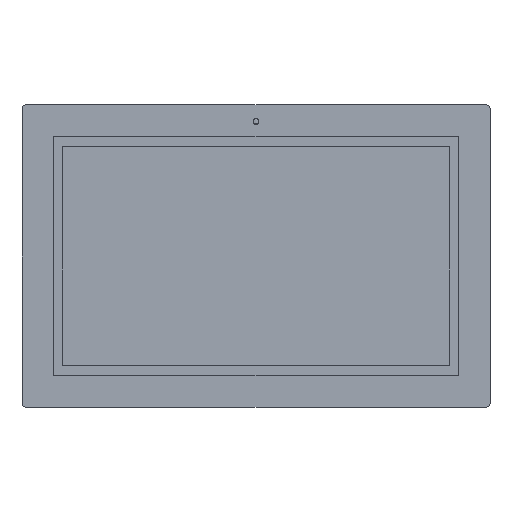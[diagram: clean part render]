
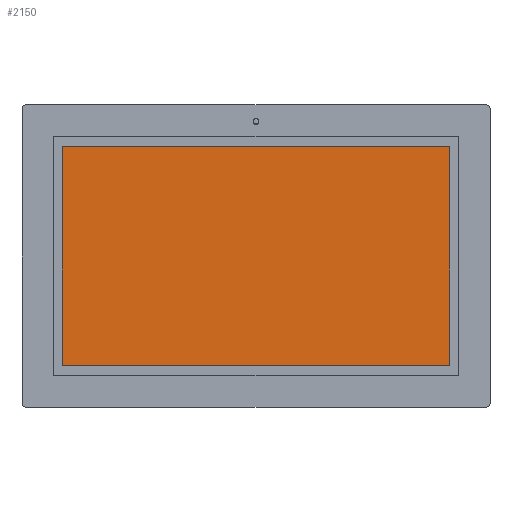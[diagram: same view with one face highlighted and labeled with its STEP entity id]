
A CAD part, top view. The second image highlights one B-rep face of the part: STEP entity #2150.
In plain terms, the highlighted planar face has unit normal (0, 0, 1).
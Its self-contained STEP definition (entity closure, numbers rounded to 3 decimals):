
#2150 = ADVANCED_FACE ( 'NONE', ( #52774 ), #20690, .F. ) ;
#12812 = EDGE_CURVE ( 'NONE', #55604, #136812, #56083, .T. ) ;
#18139 = CARTESIAN_POINT ( 'NONE',  ( 262.73, 148.52, 19.15 ) ) ;
#19327 = ORIENTED_EDGE ( 'NONE', *, *, #12812, .T. ) ;
#20690 = PLANE ( 'NONE',  #64859 ) ;
#23372 = CARTESIAN_POINT ( 'NONE',  ( 262.73, -148.48, 19.15 ) ) ;
#39019 = LINE ( 'NONE', #48808, #99626 ) ;
#39647 = CARTESIAN_POINT ( 'NONE',  ( -262.77, 148.52, 19.15 ) ) ;
#42966 = LINE ( 'NONE', #82774, #102768 ) ;
#43459 = EDGE_CURVE ( 'NONE', #117956, #55604, #39019, .T. ) ;
#48808 = CARTESIAN_POINT ( 'NONE',  ( -0.02, 148.52, 19.15 ) ) ;
#52774 = FACE_OUTER_BOUND ( 'NONE', #76253, .T. ) ;
#55604 = VERTEX_POINT ( 'NONE', #39647 ) ;
#56083 = LINE ( 'NONE', #133443, #106224 ) ;
#63250 = DIRECTION ( 'NONE',  ( 0., 1., 0. ) ) ;
#64608 = DIRECTION ( 'NONE',  ( 0., 0., -1. ) ) ;
#64859 = AXIS2_PLACEMENT_3D ( 'NONE', #119013, #64608, #63250 ) ;
#67840 = ORIENTED_EDGE ( 'NONE', *, *, #43459, .T. ) ;
#75543 = ORIENTED_EDGE ( 'NONE', *, *, #91585, .T. ) ;
#76253 = EDGE_LOOP ( 'NONE', ( #67840, #19327, #95267, #75543 ) ) ;
#82774 = CARTESIAN_POINT ( 'NONE',  ( -0.02, -148.48, 19.15 ) ) ;
#91585 = EDGE_CURVE ( 'NONE', #100266, #117956, #94399, .T. ) ;
#94399 = LINE ( 'NONE', #104858, #119680 ) ;
#95267 = ORIENTED_EDGE ( 'NONE', *, *, #104486, .T. ) ;
#99626 = VECTOR ( 'NONE', #112320, 1000. ) ;
#100266 = VERTEX_POINT ( 'NONE', #23372 ) ;
#102768 = VECTOR ( 'NONE', #125355, 1000. ) ;
#104486 = EDGE_CURVE ( 'NONE', #136812, #100266, #42966, .T. ) ;
#104858 = CARTESIAN_POINT ( 'NONE',  ( 262.73, 0.02, 19.15 ) ) ;
#106224 = VECTOR ( 'NONE', #111862, 1000. ) ;
#108613 = CARTESIAN_POINT ( 'NONE',  ( -262.77, -148.48, 19.15 ) ) ;
#111862 = DIRECTION ( 'NONE',  ( 0., -1., 0. ) ) ;
#112320 = DIRECTION ( 'NONE',  ( -1., 0., 0. ) ) ;
#117956 = VERTEX_POINT ( 'NONE', #18139 ) ;
#119013 = CARTESIAN_POINT ( 'NONE',  ( -0.02, 0.02, 19.15 ) ) ;
#119680 = VECTOR ( 'NONE', #125811, 1000. ) ;
#125355 = DIRECTION ( 'NONE',  ( 1., 0., 0. ) ) ;
#125811 = DIRECTION ( 'NONE',  ( 0., 1., 0. ) ) ;
#133443 = CARTESIAN_POINT ( 'NONE',  ( -262.77, 0.02, 19.15 ) ) ;
#136812 = VERTEX_POINT ( 'NONE', #108613 ) ;
